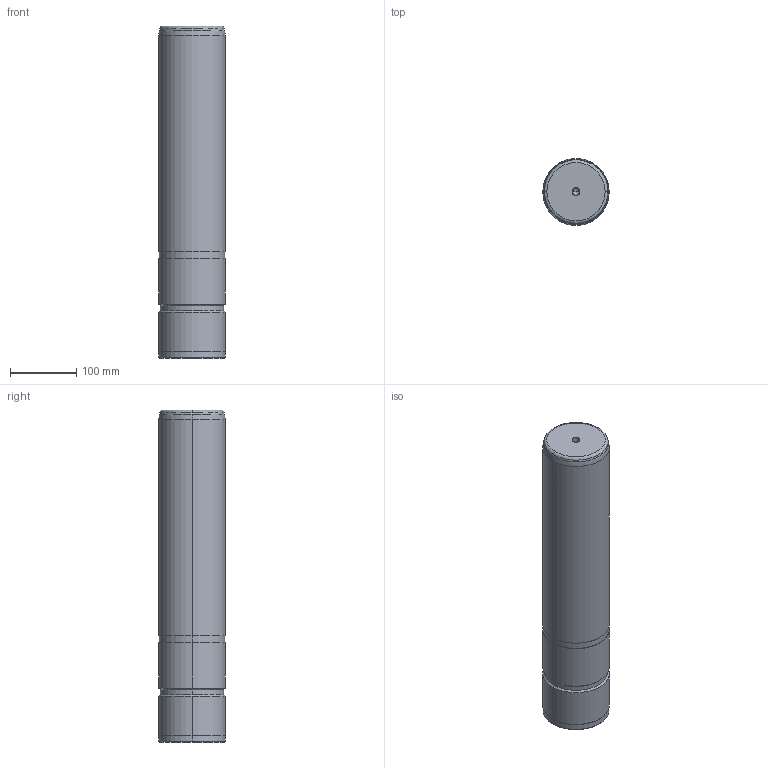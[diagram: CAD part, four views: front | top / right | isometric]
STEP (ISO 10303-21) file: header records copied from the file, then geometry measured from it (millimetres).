
FILE_DESCRIPTION((''),'2;1');
FILE_NAME('','2010-08-31T09:46:07+09:00',('misumi'),(''),'M/STEP i/f 1R2-14','CADmeister v5.1','');
FILE_SCHEMA(('AUTOMOTIVE_DESIGN'));
Length unit declared in the file: millimetre
Products named in the file (1): GPM100-500
Bounding box: 100 x 100 x 500 mm (x, y, z)
Volume: 3908854.3 mm3; surface area: 173349.4 mm2
Topology: 1 solids, 1 shells, 36 faces, 72 edges, 41 vertices
Faces by surface type: cylinder 16, cone 10, plane 6, revolution 4
Entity records: 1381 total; most frequent: DIRECTION 188, CARTESIAN_POINT 158, ORIENTED_EDGE 140, COLOUR_RGB 87, AXIS2_PLACEMENT_3D 79, CURVE_STYLE 79, PRESENTATION_STYLE_ASSIGNMENT 78, OVER_RIDING_STYLED_ITEM 77
